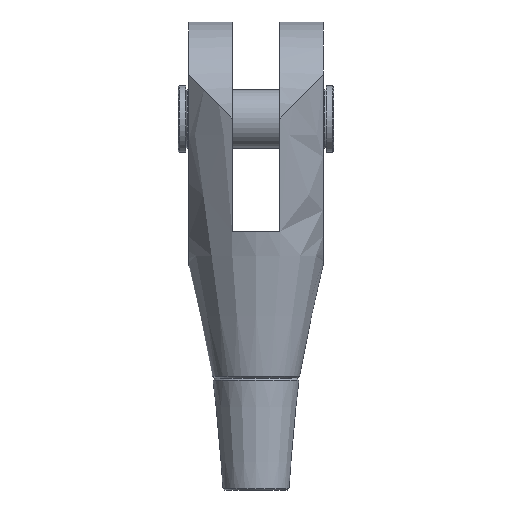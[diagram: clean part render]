
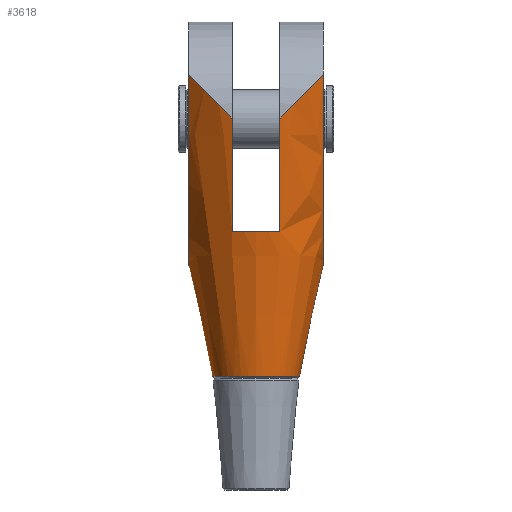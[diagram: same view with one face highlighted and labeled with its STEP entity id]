
A CAD part, front view. The second image highlights one B-rep face of the part: STEP entity #3618.
In plain terms, the highlighted conical face has half-angle 12 degrees and reference radius 126.803 mm.
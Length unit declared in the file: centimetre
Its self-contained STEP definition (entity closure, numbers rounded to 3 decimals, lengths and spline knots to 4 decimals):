
#948=B_SPLINE_CURVE_WITH_KNOTS('',3,(#4933,#4934,#4935,#4936,#4937,#4938,
#4939,#4940,#4941,#4942),.UNSPECIFIED.,.F.,.F.,(4,2,2,2,4),(50.1842,
51.8074,56.2321,58.4444,60.5646),
 .UNSPECIFIED.);
#949=B_SPLINE_CURVE_WITH_KNOTS('',3,(#4954,#4955,#4956,#4957,#4958,#4959,
#4960,#4961,#4962,#4963),.UNSPECIFIED.,.F.,.F.,(4,2,2,2,4),(159.6061,
161.7264,163.9387,168.3634,169.9865),
 .UNSPECIFIED.);
#950=B_SPLINE_CURVE_WITH_KNOTS('',3,(#4969,#4970,#4971,#4972,#4973,#4974,
#4975,#4976,#4977,#4978),.UNSPECIFIED.,.F.,.F.,(4,2,2,2,4),(160.2696,
161.8928,166.3175,168.5298,170.65),
 .UNSPECIFIED.);
#951=B_SPLINE_CURVE_WITH_KNOTS('',3,(#4989,#4990,#4991,#4992,#4993,#4994,
#4995,#4996,#4997,#4998),.UNSPECIFIED.,.F.,.F.,(4,2,2,2,4),(49.5208,
51.641,53.8533,58.278,59.9012),
 .UNSPECIFIED.);
#1000=(
BOUNDED_CURVE()
B_SPLINE_CURVE(2,(#4929,#4930,#4931),.UNSPECIFIED.,.F.,.F.)
B_SPLINE_CURVE_WITH_KNOTS((3,3),(3.5393,78.7312),
 .UNSPECIFIED.)
CURVE()
GEOMETRIC_REPRESENTATION_ITEM()
RATIONAL_B_SPLINE_CURVE((1.064,1.709,1.064))
REPRESENTATION_ITEM('')
);
#1001=(
BOUNDED_CURVE()
B_SPLINE_CURVE(2,(#4944,#4945,#4946),.UNSPECIFIED.,.F.,.F.)
B_SPLINE_CURVE_WITH_KNOTS((3,3),(13.4897,33.6346),
 .UNSPECIFIED.)
CURVE()
GEOMETRIC_REPRESENTATION_ITEM()
RATIONAL_B_SPLINE_CURVE((1.014,1.018,1.))
REPRESENTATION_ITEM('')
);
#1002=(
BOUNDED_CURVE()
B_SPLINE_CURVE(2,(#4950,#4951,#4952),.UNSPECIFIED.,.F.,.F.)
B_SPLINE_CURVE_WITH_KNOTS((3,3),(0.,20.1448),.UNSPECIFIED.)
CURVE()
GEOMETRIC_REPRESENTATION_ITEM()
RATIONAL_B_SPLINE_CURVE((1.,1.018,1.014))
REPRESENTATION_ITEM('')
);
#1003=(
BOUNDED_CURVE()
B_SPLINE_CURVE(2,(#4965,#4966,#4967),.UNSPECIFIED.,.F.,.F.)
B_SPLINE_CURVE_WITH_KNOTS((3,3),(3.5393,78.7312),
 .UNSPECIFIED.)
CURVE()
GEOMETRIC_REPRESENTATION_ITEM()
RATIONAL_B_SPLINE_CURVE((1.064,1.709,1.064))
REPRESENTATION_ITEM('')
);
#1004=(
BOUNDED_CURVE()
B_SPLINE_CURVE(2,(#4980,#4981,#4982),.UNSPECIFIED.,.F.,.F.)
B_SPLINE_CURVE_WITH_KNOTS((3,3),(13.4897,33.6346),
 .UNSPECIFIED.)
CURVE()
GEOMETRIC_REPRESENTATION_ITEM()
RATIONAL_B_SPLINE_CURVE((1.014,1.018,1.))
REPRESENTATION_ITEM('')
);
#1005=(
BOUNDED_CURVE()
B_SPLINE_CURVE(2,(#4986,#4987,#4988),.UNSPECIFIED.,.F.,.F.)
B_SPLINE_CURVE_WITH_KNOTS((3,3),(0.,20.1448),.UNSPECIFIED.)
CURVE()
GEOMETRIC_REPRESENTATION_ITEM()
RATIONAL_B_SPLINE_CURVE((1.,1.018,1.014))
REPRESENTATION_ITEM('')
);
#1019=FACE_BOUND('',#1283,.T.);
#1074=FACE_OUTER_BOUND('',#1282,.T.);
#1282=EDGE_LOOP('',(#2421,#2422,#2423,#2424,#2425,#2426,#2427,#2428,#2429,
#2430,#2431,#2432));
#1283=EDGE_LOOP('',(#2433));
#1543=CIRCLE('',#3833,6.8124);
#1544=CIRCLE('',#3835,11.6282);
#1545=CIRCLE('',#3836,11.6282);
#1598=VERTEX_POINT('',#4924);
#1599=VERTEX_POINT('',#4927);
#1600=VERTEX_POINT('',#4928);
#1601=VERTEX_POINT('',#4932);
#1602=VERTEX_POINT('',#4943);
#1603=VERTEX_POINT('',#4947);
#1604=VERTEX_POINT('',#4949);
#1605=VERTEX_POINT('',#4953);
#1606=VERTEX_POINT('',#4964);
#1607=VERTEX_POINT('',#4968);
#1608=VERTEX_POINT('',#4979);
#1609=VERTEX_POINT('',#4983);
#1610=VERTEX_POINT('',#4985);
#1935=EDGE_CURVE('',#1598,#1598,#1543,.T.);
#1936=EDGE_CURVE('',#1599,#1600,#1000,.T.);
#1937=EDGE_CURVE('',#1600,#1601,#948,.T.);
#1938=EDGE_CURVE('',#1601,#1602,#1001,.T.);
#1939=EDGE_CURVE('',#1602,#1603,#1544,.T.);
#1940=EDGE_CURVE('',#1603,#1604,#1002,.T.);
#1941=EDGE_CURVE('',#1604,#1605,#949,.T.);
#1942=EDGE_CURVE('',#1605,#1606,#1003,.T.);
#1943=EDGE_CURVE('',#1606,#1607,#950,.T.);
#1944=EDGE_CURVE('',#1607,#1608,#1004,.T.);
#1945=EDGE_CURVE('',#1608,#1609,#1545,.T.);
#1946=EDGE_CURVE('',#1609,#1610,#1005,.T.);
#1947=EDGE_CURVE('',#1610,#1599,#951,.T.);
#2421=ORIENTED_EDGE('',*,*,#1936,.T.);
#2422=ORIENTED_EDGE('',*,*,#1937,.T.);
#2423=ORIENTED_EDGE('',*,*,#1938,.T.);
#2424=ORIENTED_EDGE('',*,*,#1939,.T.);
#2425=ORIENTED_EDGE('',*,*,#1940,.T.);
#2426=ORIENTED_EDGE('',*,*,#1941,.T.);
#2427=ORIENTED_EDGE('',*,*,#1942,.T.);
#2428=ORIENTED_EDGE('',*,*,#1943,.T.);
#2429=ORIENTED_EDGE('',*,*,#1944,.T.);
#2430=ORIENTED_EDGE('',*,*,#1945,.T.);
#2431=ORIENTED_EDGE('',*,*,#1946,.T.);
#2432=ORIENTED_EDGE('',*,*,#1947,.T.);
#2433=ORIENTED_EDGE('',*,*,#1935,.F.);
#3390=CONICAL_SURFACE('',#3834,12.6803,12.);
#3618=ADVANCED_FACE('',(#1074,#1019),#3390,.T.);
#3833=AXIS2_PLACEMENT_3D('',#4925,#4078,#4079);
#3834=AXIS2_PLACEMENT_3D('',#4926,#4080,#4081);
#3835=AXIS2_PLACEMENT_3D('',#4948,#4082,#4083);
#3836=AXIS2_PLACEMENT_3D('',#4984,#4084,#4085);
#4078=DIRECTION('center_axis',(0.,0.,
-1.));
#4079=DIRECTION('ref_axis',(0.,-1.,0.));
#4080=DIRECTION('center_axis',(0.,0.,
1.));
#4081=DIRECTION('ref_axis',(0.,1.,0.));
#4082=DIRECTION('center_axis',(0.,0.,
-1.));
#4083=DIRECTION('ref_axis',(0.,1.,0.));
#4084=DIRECTION('center_axis',(0.,0.,
-1.));
#4085=DIRECTION('ref_axis',(0.,1.,0.));
#4924=CARTESIAN_POINT('',(0.,6.8124,-40.3066));
#4925=CARTESIAN_POINT('Origin',(0.,0.,
-40.3066));
#4926=CARTESIAN_POINT('Origin',(0.,0.,
-12.7));
#4927=CARTESIAN_POINT('',(10.5,13.2039,7.0102));
#4928=CARTESIAN_POINT('',(10.5,-13.2039,7.0102));
#4929=CARTESIAN_POINT('Ctrl Pts',(10.5,13.2039,7.0102));
#4930=CARTESIAN_POINT('Ctrl Pts',(10.5,0.,
-41.61));
#4931=CARTESIAN_POINT('Ctrl Pts',(10.5,-13.2039,7.0102));
#4932=CARTESIAN_POINT('',(3.75,-14.9156,0.));
#4933=CARTESIAN_POINT('Ctrl Pts',(10.5,-13.2039,7.0102));
#4934=CARTESIAN_POINT('Ctrl Pts',(10.1368,-13.3935,6.645));
#4935=CARTESIAN_POINT('Ctrl Pts',(9.7693,-13.5668,6.275));
#4936=CARTESIAN_POINT('Ctrl Pts',(8.3941,-14.1512,4.8871));
#4937=CARTESIAN_POINT('Ctrl Pts',(7.3751,-14.455,3.8533));
#4938=CARTESIAN_POINT('Ctrl Pts',(5.9175,-14.7424,2.3454));
#4939=CARTESIAN_POINT('Ctrl Pts',(5.4457,-14.8102,1.8521));
#4940=CARTESIAN_POINT('Ctrl Pts',(4.5588,-14.8958,0.9045));
#4941=CARTESIAN_POINT('Ctrl Pts',(4.1419,-14.9156,0.4496));
#4942=CARTESIAN_POINT('Ctrl Pts',(3.75,-14.9156,0.));
#4943=CARTESIAN_POINT('',(3.75,-11.0069,-17.65));
#4944=CARTESIAN_POINT('Ctrl Pts',(3.75,-14.9156,0.));
#4945=CARTESIAN_POINT('Ctrl Pts',(3.75,-12.6898,-10.1557));
#4946=CARTESIAN_POINT('Ctrl Pts',(3.75,-11.0069,-17.65));
#4947=CARTESIAN_POINT('',(-3.75,-11.0069,-17.65));
#4948=CARTESIAN_POINT('Origin',(0.,0.,
-17.65));
#4949=CARTESIAN_POINT('',(-3.75,-14.9156,0.));
#4950=CARTESIAN_POINT('Ctrl Pts',(-3.75,-11.0069,-17.65));
#4951=CARTESIAN_POINT('Ctrl Pts',(-3.75,-12.6898,-10.1557));
#4952=CARTESIAN_POINT('Ctrl Pts',(-3.75,-14.9156,0.));
#4953=CARTESIAN_POINT('',(-10.5,-13.2039,7.0102));
#4954=CARTESIAN_POINT('Ctrl Pts',(-3.75,-14.9156,0.));
#4955=CARTESIAN_POINT('Ctrl Pts',(-4.1419,-14.9156,0.4496));
#4956=CARTESIAN_POINT('Ctrl Pts',(-4.5588,-14.8958,0.9045));
#4957=CARTESIAN_POINT('Ctrl Pts',(-5.4457,-14.8102,1.8521));
#4958=CARTESIAN_POINT('Ctrl Pts',(-5.9175,-14.7424,2.3454));
#4959=CARTESIAN_POINT('Ctrl Pts',(-7.3751,-14.455,3.8533));
#4960=CARTESIAN_POINT('Ctrl Pts',(-8.3941,-14.1512,4.8871));
#4961=CARTESIAN_POINT('Ctrl Pts',(-9.7693,-13.5668,6.275));
#4962=CARTESIAN_POINT('Ctrl Pts',(-10.1368,-13.3935,6.645));
#4963=CARTESIAN_POINT('Ctrl Pts',(-10.5,-13.2039,7.0102));
#4964=CARTESIAN_POINT('',(-10.5,13.2039,7.0102));
#4965=CARTESIAN_POINT('Ctrl Pts',(-10.5,-13.2039,7.0102));
#4966=CARTESIAN_POINT('Ctrl Pts',(-10.5,0.,
-41.61));
#4967=CARTESIAN_POINT('Ctrl Pts',(-10.5,13.2039,7.0102));
#4968=CARTESIAN_POINT('',(-3.75,14.9156,0.));
#4969=CARTESIAN_POINT('Ctrl Pts',(-10.5,13.2039,7.0102));
#4970=CARTESIAN_POINT('Ctrl Pts',(-10.1368,13.3935,6.645));
#4971=CARTESIAN_POINT('Ctrl Pts',(-9.7693,13.5668,6.275));
#4972=CARTESIAN_POINT('Ctrl Pts',(-8.3941,14.1512,4.8871));
#4973=CARTESIAN_POINT('Ctrl Pts',(-7.3751,14.455,3.8533));
#4974=CARTESIAN_POINT('Ctrl Pts',(-5.9175,14.7424,2.3454));
#4975=CARTESIAN_POINT('Ctrl Pts',(-5.4457,14.8102,1.8521));
#4976=CARTESIAN_POINT('Ctrl Pts',(-4.5588,14.8958,0.9045));
#4977=CARTESIAN_POINT('Ctrl Pts',(-4.1419,14.9156,0.4496));
#4978=CARTESIAN_POINT('Ctrl Pts',(-3.75,14.9156,0.));
#4979=CARTESIAN_POINT('',(-3.75,11.0069,-17.65));
#4980=CARTESIAN_POINT('Ctrl Pts',(-3.75,14.9156,0.));
#4981=CARTESIAN_POINT('Ctrl Pts',(-3.75,12.6898,-10.1557));
#4982=CARTESIAN_POINT('Ctrl Pts',(-3.75,11.0069,-17.65));
#4983=CARTESIAN_POINT('',(3.75,11.0069,-17.65));
#4984=CARTESIAN_POINT('Origin',(0.,0.,
-17.65));
#4985=CARTESIAN_POINT('',(3.75,14.9156,0.));
#4986=CARTESIAN_POINT('Ctrl Pts',(3.75,11.0069,-17.65));
#4987=CARTESIAN_POINT('Ctrl Pts',(3.75,12.6898,-10.1557));
#4988=CARTESIAN_POINT('Ctrl Pts',(3.75,14.9156,0.));
#4989=CARTESIAN_POINT('Ctrl Pts',(3.75,14.9156,0.));
#4990=CARTESIAN_POINT('Ctrl Pts',(4.1419,14.9156,0.4496));
#4991=CARTESIAN_POINT('Ctrl Pts',(4.5588,14.8958,0.9045));
#4992=CARTESIAN_POINT('Ctrl Pts',(5.4457,14.8102,1.8521));
#4993=CARTESIAN_POINT('Ctrl Pts',(5.9175,14.7424,2.3454));
#4994=CARTESIAN_POINT('Ctrl Pts',(7.3751,14.455,3.8533));
#4995=CARTESIAN_POINT('Ctrl Pts',(8.3941,14.1512,4.8871));
#4996=CARTESIAN_POINT('Ctrl Pts',(9.7693,13.5668,6.275));
#4997=CARTESIAN_POINT('Ctrl Pts',(10.1368,13.3935,6.645));
#4998=CARTESIAN_POINT('Ctrl Pts',(10.5,13.2039,7.0102));
